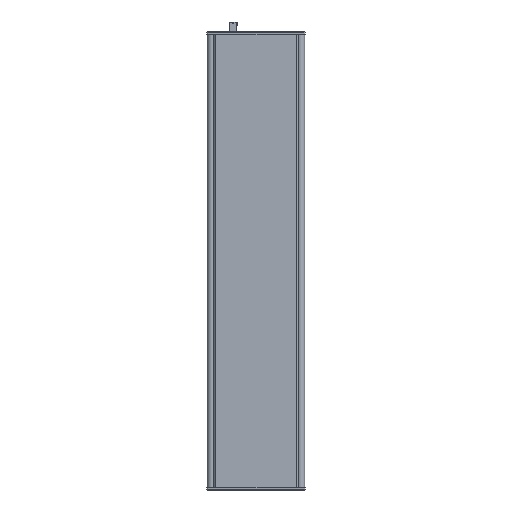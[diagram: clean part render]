
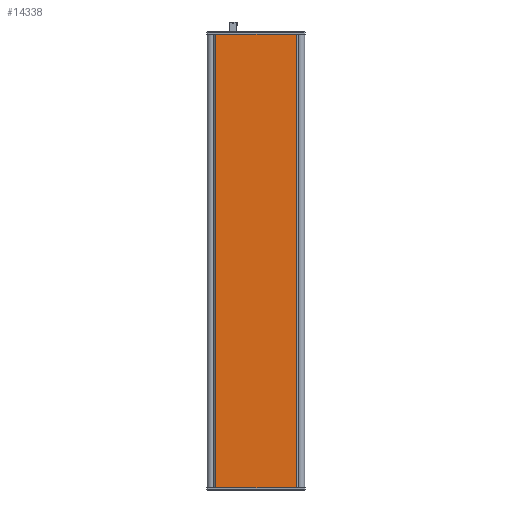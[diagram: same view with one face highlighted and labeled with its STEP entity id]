
A CAD part, front view. The second image highlights one B-rep face of the part: STEP entity #14338.
In plain terms, the highlighted planar face has unit normal (0, -1, 0).
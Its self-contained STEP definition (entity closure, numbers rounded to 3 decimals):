
#1460 = CARTESIAN_POINT ( 'NONE',  ( -26.811, 0., 0. ) ) ;
#1461 = CARTESIAN_POINT ( 'NONE',  ( -26.811, 0., 303.149 ) ) ;
#1462 = CARTESIAN_POINT ( 'NONE',  ( 26.811, 0., 303.149 ) ) ;
#1463 = CARTESIAN_POINT ( 'NONE',  ( 26.811, 0., 0. ) ) ;
#2548 = LINE ( 'NONE', #4565, #4363 ) ;
#2551 = LINE ( 'NONE', #4571, #4366 ) ;
#2552 = LINE ( 'NONE', #4573, #4367 ) ;
#2553 = LINE ( 'NONE', #4575, #4369 ) ;
#2632 = FACE_OUTER_BOUND ( 'NONE', #16922, .T. ) ;
#4363 = VECTOR ( 'NONE', #4566, 1000. ) ;
#4366 = VECTOR ( 'NONE', #4572, 1000. ) ;
#4367 = VECTOR ( 'NONE', #4574, 1000. ) ;
#4369 = VECTOR ( 'NONE', #4576, 1000. ) ;
#4565 = CARTESIAN_POINT ( 'NONE',  ( -26.811, 0., 303.149 ) ) ;
#4566 = DIRECTION ( 'NONE',  ( 0., 0., -1. ) ) ;
#4571 = CARTESIAN_POINT ( 'NONE',  ( 26.811, 0., 303.149 ) ) ;
#4572 = DIRECTION ( 'NONE',  ( -1., 0., 0. ) ) ;
#4573 = CARTESIAN_POINT ( 'NONE',  ( 26.811, 0., 0. ) ) ;
#4574 = DIRECTION ( 'NONE',  ( -1., 0., 0. ) ) ;
#4575 = CARTESIAN_POINT ( 'NONE',  ( 26.811, 0., 303.149 ) ) ;
#4576 = DIRECTION ( 'NONE',  ( 0., 0., -1. ) ) ;
#4766 = PLANE ( 'NONE',  #4946 ) ;
#4767 = CARTESIAN_POINT ( 'NONE',  ( 26.811, 0., 303.149 ) ) ;
#4768 = DIRECTION ( 'NONE',  ( 0., -1., 0. ) ) ;
#4769 = DIRECTION ( 'NONE',  ( 1., 0., 0. ) ) ;
#4946 = AXIS2_PLACEMENT_3D ( 'NONE', #4767, #4768, #4769 ) ;
#12333 = VERTEX_POINT ( 'NONE', #1460 ) ;
#12334 = VERTEX_POINT ( 'NONE', #1461 ) ;
#12335 = VERTEX_POINT ( 'NONE', #1462 ) ;
#12336 = VERTEX_POINT ( 'NONE', #1463 ) ;
#14272 = EDGE_CURVE ( 'NONE', #12334, #12333, #2548, .T. ) ;
#14275 = EDGE_CURVE ( 'NONE', #12335, #12334, #2551, .T. ) ;
#14276 = EDGE_CURVE ( 'NONE', #12336, #12333, #2552, .T. ) ;
#14277 = EDGE_CURVE ( 'NONE', #12335, #12336, #2553, .T. ) ;
#14338 = ADVANCED_FACE ( 'NONE', ( #2632 ), #4766, .T. ) ;
#15993 = ORIENTED_EDGE ( 'NONE', *, *, #14276, .F. ) ;
#15994 = ORIENTED_EDGE ( 'NONE', *, *, #14275, .T. ) ;
#15995 = ORIENTED_EDGE ( 'NONE', *, *, #14272, .T. ) ;
#15997 = ORIENTED_EDGE ( 'NONE', *, *, #14277, .F. ) ;
#16922 = EDGE_LOOP ( 'NONE', ( #15994, #15995, #15993, #15997 ) ) ;
